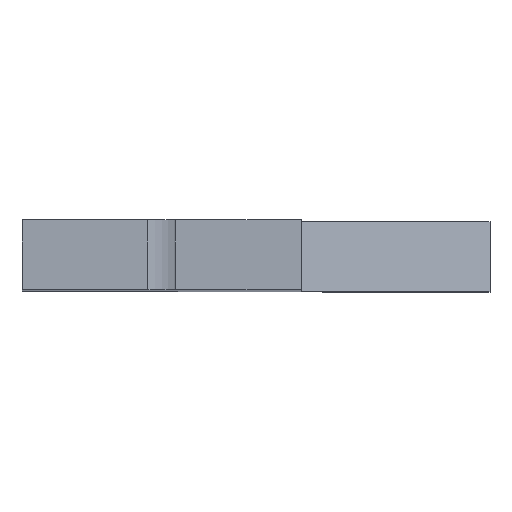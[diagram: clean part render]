
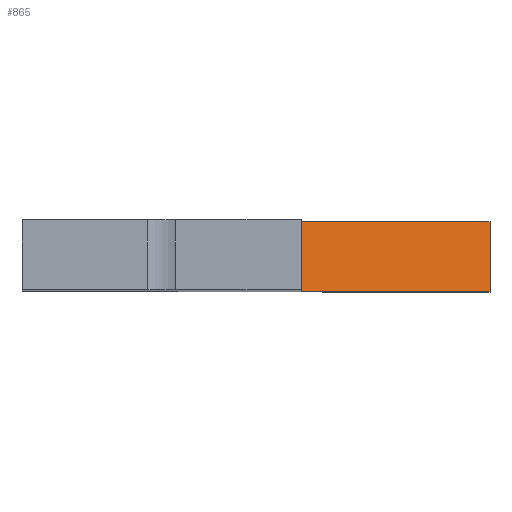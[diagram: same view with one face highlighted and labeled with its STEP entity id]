
A CAD part, top view. The second image highlights one B-rep face of the part: STEP entity #865.
In plain terms, the highlighted planar face has unit normal (0.486, 0, 0.874).
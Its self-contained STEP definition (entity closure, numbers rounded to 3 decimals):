
#72 = PLANE('',#73);
#73 = AXIS2_PLACEMENT_3D('',#74,#75,#76);
#74 = CARTESIAN_POINT('',(29.692,-2.,73.764));
#75 = DIRECTION('',(-0.,-1.,-0.));
#76 = DIRECTION('',(0.,0.,-1.));
#100 = PLANE('',#101);
#101 = AXIS2_PLACEMENT_3D('',#102,#103,#104);
#102 = CARTESIAN_POINT('',(44.3,0.,30.2));
#103 = DIRECTION('',(-1.,0.,0.));
#104 = DIRECTION('',(0.,0.,1.));
#126 = PLANE('',#127);
#127 = AXIS2_PLACEMENT_3D('',#128,#129,#130);
#128 = CARTESIAN_POINT('',(29.692,2.,73.764));
#129 = DIRECTION('',(-0.,-1.,-0.));
#130 = DIRECTION('',(0.,0.,-1.));
#220 = VERTEX_POINT('',#221);
#221 = CARTESIAN_POINT('',(44.3,-2.,52.));
#242 = EDGE_CURVE('',#220,#243,#245,.T.);
#243 = VERTEX_POINT('',#244);
#244 = CARTESIAN_POINT('',(33.5,-2.,58.));
#245 = SURFACE_CURVE('',#246,(#250,#257),.PCURVE_S1.);
#246 = LINE('',#247,#248);
#247 = CARTESIAN_POINT('',(44.3,-2.,52.));
#248 = VECTOR('',#249,1.);
#249 = DIRECTION('',(-0.874,0.,0.486));
#250 = PCURVE('',#72,#251);
#251 = DEFINITIONAL_REPRESENTATION('',(#252),#256);
#252 = LINE('',#253,#254);
#253 = CARTESIAN_POINT('',(21.764,14.608));
#254 = VECTOR('',#255,1.);
#255 = DIRECTION('',(-0.486,-0.874));
#256 = ( GEOMETRIC_REPRESENTATION_CONTEXT(2) 
PARAMETRIC_REPRESENTATION_CONTEXT() REPRESENTATION_CONTEXT('2D SPACE',''
  ) );
#257 = PCURVE('',#258,#263);
#258 = PLANE('',#259);
#259 = AXIS2_PLACEMENT_3D('',#260,#261,#262);
#260 = CARTESIAN_POINT('',(44.3,0.,52.));
#261 = DIRECTION('',(-0.486,-0.,-0.874));
#262 = DIRECTION('',(-0.874,0.,0.486));
#263 = DEFINITIONAL_REPRESENTATION('',(#264),#268);
#264 = LINE('',#265,#266);
#265 = CARTESIAN_POINT('',(0.,-2.));
#266 = VECTOR('',#267,1.);
#267 = DIRECTION('',(1.,0.));
#268 = ( GEOMETRIC_REPRESENTATION_CONTEXT(2) 
PARAMETRIC_REPRESENTATION_CONTEXT() REPRESENTATION_CONTEXT('2D SPACE',''
  ) );
#286 = PLANE('',#287);
#287 = AXIS2_PLACEMENT_3D('',#288,#289,#290);
#288 = CARTESIAN_POINT('',(33.5,0.,58.));
#289 = DIRECTION('',(-1.,0.,0.));
#290 = DIRECTION('',(0.,0.,1.));
#510 = EDGE_CURVE('',#511,#220,#513,.T.);
#511 = VERTEX_POINT('',#512);
#512 = CARTESIAN_POINT('',(44.3,2.,52.));
#513 = SURFACE_CURVE('',#514,(#518,#525),.PCURVE_S1.);
#514 = LINE('',#515,#516);
#515 = CARTESIAN_POINT('',(44.3,2.,52.));
#516 = VECTOR('',#517,1.);
#517 = DIRECTION('',(0.,-1.,0.));
#518 = PCURVE('',#100,#519);
#519 = DEFINITIONAL_REPRESENTATION('',(#520),#524);
#520 = LINE('',#521,#522);
#521 = CARTESIAN_POINT('',(21.8,2.));
#522 = VECTOR('',#523,1.);
#523 = DIRECTION('',(0.,-1.));
#524 = ( GEOMETRIC_REPRESENTATION_CONTEXT(2) 
PARAMETRIC_REPRESENTATION_CONTEXT() REPRESENTATION_CONTEXT('2D SPACE',''
  ) );
#525 = PCURVE('',#258,#526);
#526 = DEFINITIONAL_REPRESENTATION('',(#527),#531);
#527 = LINE('',#528,#529);
#528 = CARTESIAN_POINT('',(0.,2.));
#529 = VECTOR('',#530,1.);
#530 = DIRECTION('',(0.,-1.));
#531 = ( GEOMETRIC_REPRESENTATION_CONTEXT(2) 
PARAMETRIC_REPRESENTATION_CONTEXT() REPRESENTATION_CONTEXT('2D SPACE',''
  ) );
#561 = EDGE_CURVE('',#511,#562,#564,.T.);
#562 = VERTEX_POINT('',#563);
#563 = CARTESIAN_POINT('',(33.5,2.,58.));
#564 = SURFACE_CURVE('',#565,(#569,#576),.PCURVE_S1.);
#565 = LINE('',#566,#567);
#566 = CARTESIAN_POINT('',(44.3,2.,52.));
#567 = VECTOR('',#568,1.);
#568 = DIRECTION('',(-0.874,0.,0.486));
#569 = PCURVE('',#126,#570);
#570 = DEFINITIONAL_REPRESENTATION('',(#571),#575);
#571 = LINE('',#572,#573);
#572 = CARTESIAN_POINT('',(21.764,14.608));
#573 = VECTOR('',#574,1.);
#574 = DIRECTION('',(-0.486,-0.874));
#575 = ( GEOMETRIC_REPRESENTATION_CONTEXT(2) 
PARAMETRIC_REPRESENTATION_CONTEXT() REPRESENTATION_CONTEXT('2D SPACE',''
  ) );
#576 = PCURVE('',#258,#577);
#577 = DEFINITIONAL_REPRESENTATION('',(#578),#582);
#578 = LINE('',#579,#580);
#579 = CARTESIAN_POINT('',(0.,2.));
#580 = VECTOR('',#581,1.);
#581 = DIRECTION('',(1.,0.));
#582 = ( GEOMETRIC_REPRESENTATION_CONTEXT(2) 
PARAMETRIC_REPRESENTATION_CONTEXT() REPRESENTATION_CONTEXT('2D SPACE',''
  ) );
#865 = ADVANCED_FACE('',(#866),#258,.F.);
#866 = FACE_BOUND('',#867,.F.);
#867 = EDGE_LOOP('',(#868,#869,#890,#891));
#868 = ORIENTED_EDGE('',*,*,#242,.T.);
#869 = ORIENTED_EDGE('',*,*,#870,.F.);
#870 = EDGE_CURVE('',#562,#243,#871,.T.);
#871 = SURFACE_CURVE('',#872,(#876,#883),.PCURVE_S1.);
#872 = LINE('',#873,#874);
#873 = CARTESIAN_POINT('',(33.5,2.,58.));
#874 = VECTOR('',#875,1.);
#875 = DIRECTION('',(0.,-1.,0.));
#876 = PCURVE('',#258,#877);
#877 = DEFINITIONAL_REPRESENTATION('',(#878),#882);
#878 = LINE('',#879,#880);
#879 = CARTESIAN_POINT('',(12.355,2.));
#880 = VECTOR('',#881,1.);
#881 = DIRECTION('',(0.,-1.));
#882 = ( GEOMETRIC_REPRESENTATION_CONTEXT(2) 
PARAMETRIC_REPRESENTATION_CONTEXT() REPRESENTATION_CONTEXT('2D SPACE',''
  ) );
#883 = PCURVE('',#286,#884);
#884 = DEFINITIONAL_REPRESENTATION('',(#885),#889);
#885 = LINE('',#886,#887);
#886 = CARTESIAN_POINT('',(0.,2.));
#887 = VECTOR('',#888,1.);
#888 = DIRECTION('',(0.,-1.));
#889 = ( GEOMETRIC_REPRESENTATION_CONTEXT(2) 
PARAMETRIC_REPRESENTATION_CONTEXT() REPRESENTATION_CONTEXT('2D SPACE',''
  ) );
#890 = ORIENTED_EDGE('',*,*,#561,.F.);
#891 = ORIENTED_EDGE('',*,*,#510,.T.);
